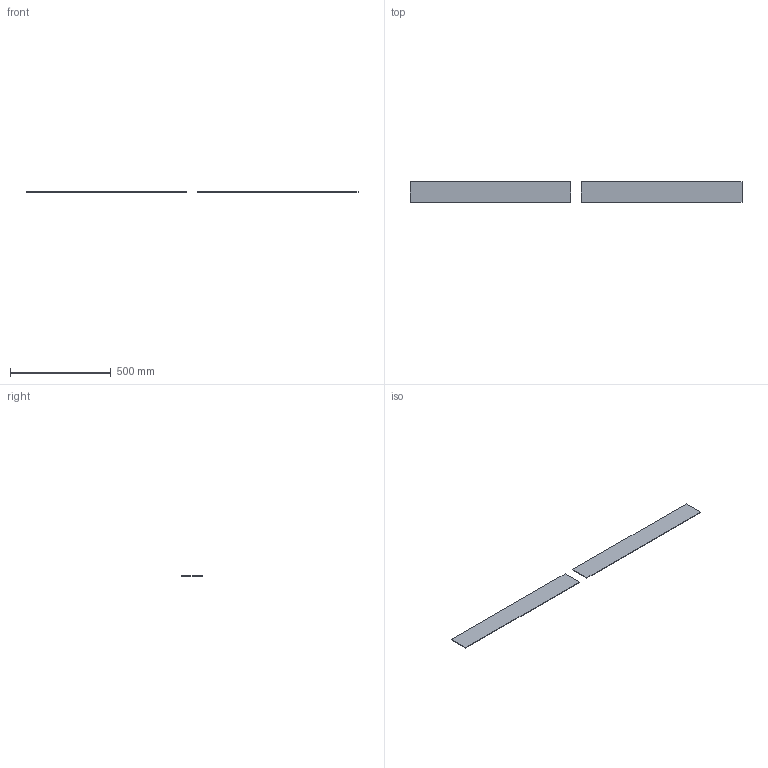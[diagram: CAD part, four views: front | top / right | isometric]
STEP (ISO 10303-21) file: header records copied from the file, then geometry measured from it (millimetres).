
FILE_DESCRIPTION(('Open CASCADE Model'),'2;1');
FILE_NAME('Open CASCADE Shape Model','2026-10-15T15:10:08',('Author'),( 'Open CASCADE'),'Open CASCADE STEP processor 8.0','Open CASCADE 8.0' ,'Unknown');
FILE_SCHEMA(('AUTOMOTIVE_DESIGN { 1 0 10303 214 1 1 1 1 }'));
Length unit declared in the file: millimetre
Products named in the file (3): RODAPIE_LARGO_1700x100x3_P05_JUNTA_25 206; RODAPIE_LARGO_1700x100x3_P05_JUNTA_25 206.1; RODAPIE_LARGO_1700x100x3_P05_JUNTA_25 206.2
Assembly tree (2 placements, depth 2):
  RODAPIE_LARGO_1700x100x3_P05_JUNTA_25 206
    RODAPIE_LARGO_1700x100x3_P05_JUNTA_25 206.1
    RODAPIE_LARGO_1700x100x3_P05_JUNTA_25 206.2
Bounding box: 1646 x 100 x 3 mm (x, y, z)
Volume: 477600 mm3; surface area: 329152 mm2
Topology: 2 solids, 2 shells, 12 faces, 24 edges, 16 vertices
Faces by surface type: plane 12
Entity records: 632 total; most frequent: CARTESIAN_POINT 135, DIRECTION 70, ORIENTED_EDGE 48, PCURVE 48, DEFINITIONAL_REPRESENTATION 48, LINE 40, VECTOR 40, B_SPLINE_CURVE_WITH_KNOTS 32
